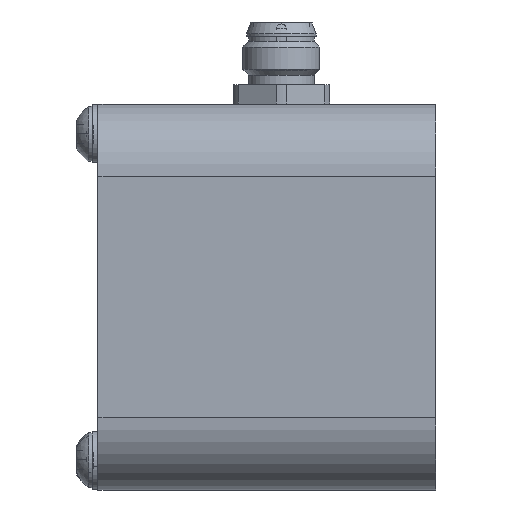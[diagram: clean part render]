
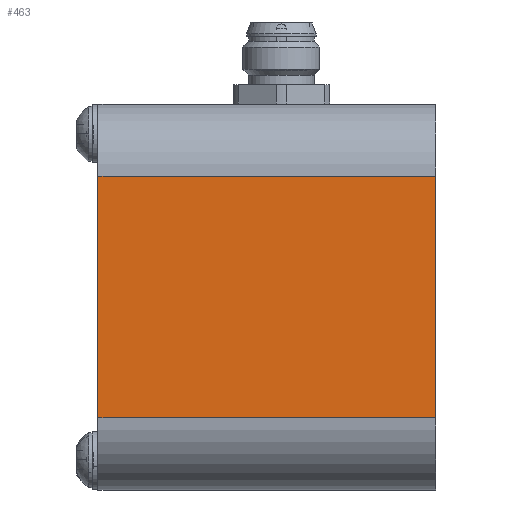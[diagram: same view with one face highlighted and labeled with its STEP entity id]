
A CAD part, left-side view. The second image highlights one B-rep face of the part: STEP entity #463.
In plain terms, the highlighted planar face has unit normal (-1, 0, 0).
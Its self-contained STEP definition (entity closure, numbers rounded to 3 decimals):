
#463 = ADVANCED_FACE ( 'NONE', ( #705 ), #3512, .F. ) ;
#699 = CARTESIAN_POINT ( 'NONE',  ( 0., 35., -32.5 ) ) ;
#705 = FACE_OUTER_BOUND ( 'NONE', #5099, .T. ) ;
#723 = VECTOR ( 'NONE', #5526, 1000. ) ;
#777 = ORIENTED_EDGE ( 'NONE', *, *, #4139, .T. ) ;
#825 = LINE ( 'NONE', #8247, #5624 ) ;
#839 = VERTEX_POINT ( 'NONE', #3659 ) ;
#1263 = ORIENTED_EDGE ( 'NONE', *, *, #7872, .F. ) ;
#1903 = VECTOR ( 'NONE', #2518, 1000. ) ;
#2518 = DIRECTION ( 'NONE',  ( 0., -1., 0. ) ) ;
#2602 = CARTESIAN_POINT ( 'NONE',  ( 0., 35., 0. ) ) ;
#2819 = AXIS2_PLACEMENT_3D ( 'NONE', #2602, #7628, #5577 ) ;
#3378 = CARTESIAN_POINT ( 'NONE',  ( 0., 35., -32.5 ) ) ;
#3512 = PLANE ( 'NONE',  #2819 ) ;
#3542 = VECTOR ( 'NONE', #5420, 1000. ) ;
#3659 = CARTESIAN_POINT ( 'NONE',  ( 0., 0., -32.5 ) ) ;
#4139 = EDGE_CURVE ( 'NONE', #6428, #5919, #7219, .T. ) ;
#4300 = EDGE_CURVE ( 'NONE', #839, #6428, #7131, .T. ) ;
#4862 = CARTESIAN_POINT ( 'NONE',  ( 0., 35., -7.5 ) ) ;
#5099 = EDGE_LOOP ( 'NONE', ( #1263, #8131, #6520, #777 ) ) ;
#5420 = DIRECTION ( 'NONE',  ( 0., 0., 1. ) ) ;
#5526 = DIRECTION ( 'NONE',  ( 0., 1., 0. ) ) ;
#5577 = DIRECTION ( 'NONE',  ( 0., 0., -1. ) ) ;
#5624 = VECTOR ( 'NONE', #7412, 1000. ) ;
#5919 = VERTEX_POINT ( 'NONE', #4862 ) ;
#6302 = CARTESIAN_POINT ( 'NONE',  ( 0., 0., 0. ) ) ;
#6403 = CARTESIAN_POINT ( 'NONE',  ( 0., 35., -7.5 ) ) ;
#6428 = VERTEX_POINT ( 'NONE', #7442 ) ;
#6520 = ORIENTED_EDGE ( 'NONE', *, *, #4300, .T. ) ;
#7119 = VERTEX_POINT ( 'NONE', #699 ) ;
#7131 = LINE ( 'NONE', #6302, #3542 ) ;
#7219 = LINE ( 'NONE', #6403, #723 ) ;
#7412 = DIRECTION ( 'NONE',  ( 0., 0., 1. ) ) ;
#7442 = CARTESIAN_POINT ( 'NONE',  ( 0., 0., -7.5 ) ) ;
#7461 = EDGE_CURVE ( 'NONE', #7119, #839, #7631, .T. ) ;
#7628 = DIRECTION ( 'NONE',  ( 1., 0., 0. ) ) ;
#7631 = LINE ( 'NONE', #3378, #1903 ) ;
#7872 = EDGE_CURVE ( 'NONE', #7119, #5919, #825, .T. ) ;
#8131 = ORIENTED_EDGE ( 'NONE', *, *, #7461, .T. ) ;
#8247 = CARTESIAN_POINT ( 'NONE',  ( 0., 35., 0. ) ) ;
